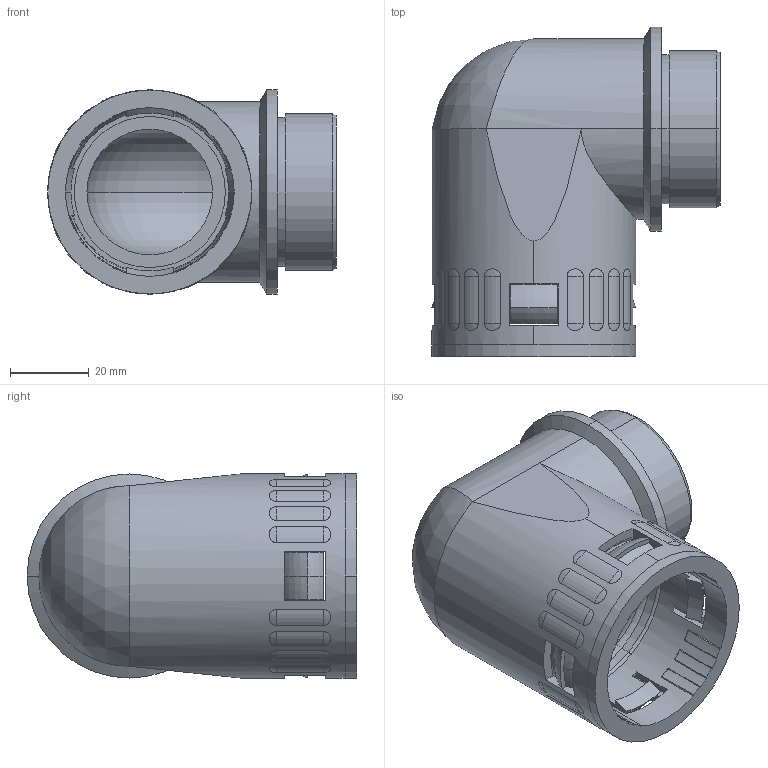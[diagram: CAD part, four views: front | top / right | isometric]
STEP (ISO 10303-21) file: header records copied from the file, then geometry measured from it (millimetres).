
FILE_DESCRIPTION (( 'STEP AP203' ), '1' );
FILE_NAME ('WQW-M40-AD42.5.STEP', '2019-09-23T06:26:47', ( '' ), ( '' ), 'SwSTEP 2.0', 'SolidWorks 2016', '' );
FILE_SCHEMA (( 'CONFIG_CONTROL_DESIGN' ));
Length unit declared in the file: millimetre
Products named in the file (4): GFD-AD42.5; WQW-M40-AD42.5-01; NSK-AD42.5; WQW-M40-AD42.5
Assembly tree (3 placements, depth 2):
  WQW-M40-AD42.5
    WQW-M40-AD42.5-01
    GFD-AD42.5
    NSK-AD42.5
Bounding box: 73.5 x 84 x 52 mm (x, y, z)
Volume: 88922.2 mm3; surface area: 45183.6 mm2
Topology: 5 solids, 5 shells, 342 faces, 877 edges, 565 vertices
Faces by surface type: plane 133, cylinder 105, cone 49, sphere 33, torus 22
Entity records: 11904 total; most frequent: CARTESIAN_POINT 2916, DIRECTION 1898, ORIENTED_EDGE 1752, EDGE_CURVE 876, AXIS2_PLACEMENT_3D 745, VERTEX_POINT 565, VECTOR 408, LINE 408
